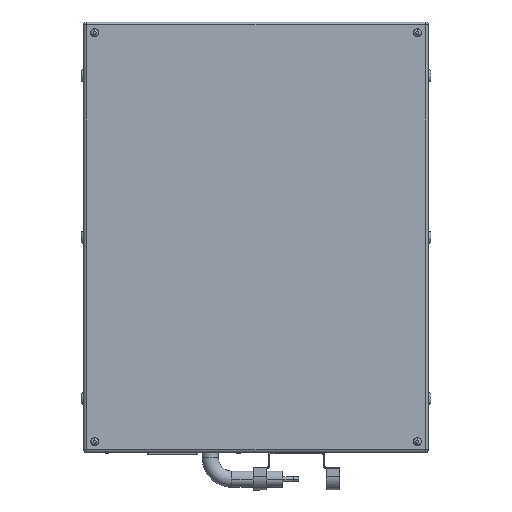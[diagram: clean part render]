
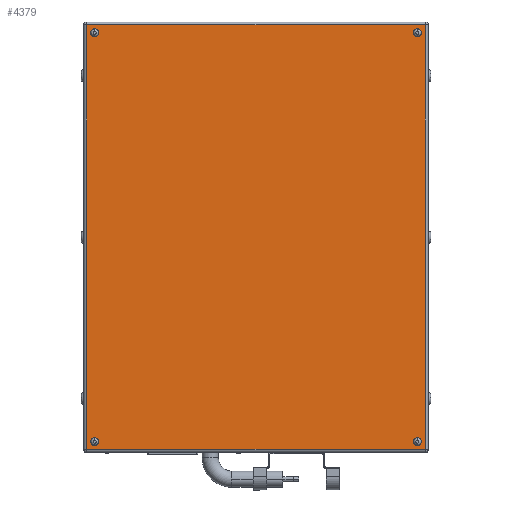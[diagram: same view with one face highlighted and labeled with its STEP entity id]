
A CAD part, front view. The second image highlights one B-rep face of the part: STEP entity #4379.
In plain terms, the highlighted planar face has unit normal (0, -1, 0).
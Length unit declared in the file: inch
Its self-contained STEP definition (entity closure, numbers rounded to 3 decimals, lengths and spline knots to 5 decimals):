
#219 = DIRECTION ( 'NONE',  ( 0., 0., -1. ) ) ;
#276 = ORIENTED_EDGE ( 'NONE', *, *, #18897, .T. ) ;
#513 = DIRECTION ( 'NONE',  ( 1., 0., 0. ) ) ;
#607 = DIRECTION ( 'NONE',  ( 0., -1., 0. ) ) ;
#633 = CIRCLE ( 'NONE', #12388, 0.37402 ) ;
#1040 = EDGE_CURVE ( 'NONE', #8239, #16254, #19279, .T. ) ;
#1176 = VERTEX_POINT ( 'NONE', #19971 ) ;
#1211 = DIRECTION ( 'NONE',  ( 0., -1., 0. ) ) ;
#1282 = VECTOR ( 'NONE', #5000, 39.37008 ) ;
#1363 = CARTESIAN_POINT ( 'NONE',  ( 15., -12., 19.37402 ) ) ;
#1459 = EDGE_CURVE ( 'NONE', #7001, #10163, #6346, .T. ) ;
#1619 = AXIS2_PLACEMENT_3D ( 'NONE', #18265, #5335, #9964 ) ;
#1727 = CARTESIAN_POINT ( 'NONE',  ( 15.734, -12., 19.8 ) ) ;
#1761 = CARTESIAN_POINT ( 'NONE',  ( -15.734, -12., -19.734 ) ) ;
#2200 = CIRCLE ( 'NONE', #10274, 0.37402 ) ;
#2323 = EDGE_CURVE ( 'NONE', #16432, #5870, #18737, .T. ) ;
#2555 = DIRECTION ( 'NONE',  ( 0., 0., -1. ) ) ;
#2671 = FACE_BOUND ( 'NONE', #4828, .T. ) ;
#2726 = EDGE_CURVE ( 'NONE', #16254, #8239, #19765, .T. ) ;
#2907 = DIRECTION ( 'NONE',  ( 0., -1., 0. ) ) ;
#2982 = FACE_OUTER_BOUND ( 'NONE', #15284, .T. ) ;
#3100 = ORIENTED_EDGE ( 'NONE', *, *, #2323, .F. ) ;
#3672 = AXIS2_PLACEMENT_3D ( 'NONE', #6740, #5252, #16632 ) ;
#4014 = CARTESIAN_POINT ( 'NONE',  ( -15., -12., -19. ) ) ;
#4118 = EDGE_CURVE ( 'NONE', #1176, #20426, #8253, .T. ) ;
#4228 = ORIENTED_EDGE ( 'NONE', *, *, #12617, .T. ) ;
#4379 = ADVANCED_FACE ( 'NONE', ( #2671, #7511, #20418, #20626, #2982 ), #15831, .T. ) ;
#4588 = DIRECTION ( 'NONE',  ( 0., -1., 0. ) ) ;
#4695 = DIRECTION ( 'NONE',  ( 0., 0., -1. ) ) ;
#4828 = EDGE_LOOP ( 'NONE', ( #7440, #5367 ) ) ;
#5000 = DIRECTION ( 'NONE',  ( 0., 0., 1. ) ) ;
#5189 = CARTESIAN_POINT ( 'NONE',  ( 0., -12., 0. ) ) ;
#5252 = DIRECTION ( 'NONE',  ( 0., -1., 0. ) ) ;
#5335 = DIRECTION ( 'NONE',  ( 0., -1., 0. ) ) ;
#5355 = LINE ( 'NONE', #5461, #6421 ) ;
#5367 = ORIENTED_EDGE ( 'NONE', *, *, #13427, .F. ) ;
#5461 = CARTESIAN_POINT ( 'NONE',  ( 15.8, -12., -19.734 ) ) ;
#5464 = CARTESIAN_POINT ( 'NONE',  ( 15., -12., 19. ) ) ;
#5491 = DIRECTION ( 'NONE',  ( -1., 0., 0. ) ) ;
#5590 = CARTESIAN_POINT ( 'NONE',  ( -15.8, -12., 19.734 ) ) ;
#5604 = CARTESIAN_POINT ( 'NONE',  ( -15.734, -12., -19.8 ) ) ;
#5870 = VERTEX_POINT ( 'NONE', #10766 ) ;
#5980 = CIRCLE ( 'NONE', #1619, 0.37402 ) ;
#6003 = AXIS2_PLACEMENT_3D ( 'NONE', #4014, #18215, #14190 ) ;
#6346 = CIRCLE ( 'NONE', #3672, 0.37402 ) ;
#6421 = VECTOR ( 'NONE', #513, 39.37008 ) ;
#6476 = EDGE_CURVE ( 'NONE', #5870, #16432, #5980, .T. ) ;
#6740 = CARTESIAN_POINT ( 'NONE',  ( 15., -12., -19. ) ) ;
#7001 = VERTEX_POINT ( 'NONE', #12401 ) ;
#7192 = ORIENTED_EDGE ( 'NONE', *, *, #1459, .F. ) ;
#7200 = CARTESIAN_POINT ( 'NONE',  ( -15., -12., 18.62598 ) ) ;
#7295 = LINE ( 'NONE', #5604, #13968 ) ;
#7440 = ORIENTED_EDGE ( 'NONE', *, *, #15577, .F. ) ;
#7511 = FACE_BOUND ( 'NONE', #18182, .T. ) ;
#7619 = CARTESIAN_POINT ( 'NONE',  ( -15., -12., 19. ) ) ;
#8239 = VERTEX_POINT ( 'NONE', #8285 ) ;
#8253 = LINE ( 'NONE', #1727, #1282 ) ;
#8285 = CARTESIAN_POINT ( 'NONE',  ( -15., -12., 19.37402 ) ) ;
#8549 = AXIS2_PLACEMENT_3D ( 'NONE', #7619, #1211, #4695 ) ;
#9964 = DIRECTION ( 'NONE',  ( 0., 0., -1. ) ) ;
#10008 = CARTESIAN_POINT ( 'NONE',  ( -15.734, -12., 19.734 ) ) ;
#10057 = VERTEX_POINT ( 'NONE', #1761 ) ;
#10163 = VERTEX_POINT ( 'NONE', #12618 ) ;
#10198 = EDGE_CURVE ( 'NONE', #10163, #7001, #14931, .T. ) ;
#10274 = AXIS2_PLACEMENT_3D ( 'NONE', #18782, #2907, #11125 ) ;
#10672 = ORIENTED_EDGE ( 'NONE', *, *, #6476, .F. ) ;
#10766 = CARTESIAN_POINT ( 'NONE',  ( -15., -12., -18.62598 ) ) ;
#11125 = DIRECTION ( 'NONE',  ( 0., 0., -1. ) ) ;
#11196 = EDGE_CURVE ( 'NONE', #16389, #10057, #7295, .T. ) ;
#11377 = DIRECTION ( 'NONE',  ( 0., -1., 0. ) ) ;
#11862 = CARTESIAN_POINT ( 'NONE',  ( 15., -12., -19. ) ) ;
#12016 = CARTESIAN_POINT ( 'NONE',  ( 15.734, -12., 19.734 ) ) ;
#12388 = AXIS2_PLACEMENT_3D ( 'NONE', #5464, #11377, #219 ) ;
#12401 = CARTESIAN_POINT ( 'NONE',  ( 15., -12., -19.37402 ) ) ;
#12617 = EDGE_CURVE ( 'NONE', #10057, #1176, #5355, .T. ) ;
#12618 = CARTESIAN_POINT ( 'NONE',  ( 15., -12., -18.62598 ) ) ;
#12977 = ORIENTED_EDGE ( 'NONE', *, *, #10198, .F. ) ;
#13417 = AXIS2_PLACEMENT_3D ( 'NONE', #20558, #4588, #15960 ) ;
#13427 = EDGE_CURVE ( 'NONE', #14789, #17789, #2200, .T. ) ;
#13498 = LINE ( 'NONE', #5590, #15634 ) ;
#13968 = VECTOR ( 'NONE', #2555, 39.37008 ) ;
#14190 = DIRECTION ( 'NONE',  ( 0., 0., -1. ) ) ;
#14789 = VERTEX_POINT ( 'NONE', #16330 ) ;
#14931 = CIRCLE ( 'NONE', #17602, 0.37402 ) ;
#15284 = EDGE_LOOP ( 'NONE', ( #16589, #276, #16120, #4228 ) ) ;
#15577 = EDGE_CURVE ( 'NONE', #17789, #14789, #633, .T. ) ;
#15634 = VECTOR ( 'NONE', #5491, 39.37008 ) ;
#15831 = PLANE ( 'NONE',  #19742 ) ;
#15960 = DIRECTION ( 'NONE',  ( 0., 0., -1. ) ) ;
#16120 = ORIENTED_EDGE ( 'NONE', *, *, #11196, .T. ) ;
#16254 = VERTEX_POINT ( 'NONE', #7200 ) ;
#16330 = CARTESIAN_POINT ( 'NONE',  ( 15., -12., 18.62598 ) ) ;
#16346 = DIRECTION ( 'NONE',  ( 0., 0., -1. ) ) ;
#16389 = VERTEX_POINT ( 'NONE', #10008 ) ;
#16432 = VERTEX_POINT ( 'NONE', #19768 ) ;
#16589 = ORIENTED_EDGE ( 'NONE', *, *, #4118, .T. ) ;
#16632 = DIRECTION ( 'NONE',  ( 0., 0., -1. ) ) ;
#17602 = AXIS2_PLACEMENT_3D ( 'NONE', #11862, #607, #18277 ) ;
#17789 = VERTEX_POINT ( 'NONE', #1363 ) ;
#18003 = DIRECTION ( 'NONE',  ( 0., -1., 0. ) ) ;
#18182 = EDGE_LOOP ( 'NONE', ( #20339, #19056 ) ) ;
#18215 = DIRECTION ( 'NONE',  ( 0., -1., 0. ) ) ;
#18265 = CARTESIAN_POINT ( 'NONE',  ( -15., -12., -19. ) ) ;
#18277 = DIRECTION ( 'NONE',  ( 0., 0., -1. ) ) ;
#18737 = CIRCLE ( 'NONE', #6003, 0.37402 ) ;
#18782 = CARTESIAN_POINT ( 'NONE',  ( 15., -12., 19. ) ) ;
#18897 = EDGE_CURVE ( 'NONE', #20426, #16389, #13498, .T. ) ;
#19056 = ORIENTED_EDGE ( 'NONE', *, *, #2726, .F. ) ;
#19279 = CIRCLE ( 'NONE', #8549, 0.37402 ) ;
#19742 = AXIS2_PLACEMENT_3D ( 'NONE', #5189, #18003, #16346 ) ;
#19765 = CIRCLE ( 'NONE', #13417, 0.37402 ) ;
#19768 = CARTESIAN_POINT ( 'NONE',  ( -15., -12., -19.37402 ) ) ;
#19829 = EDGE_LOOP ( 'NONE', ( #12977, #7192 ) ) ;
#19971 = CARTESIAN_POINT ( 'NONE',  ( 15.734, -12., -19.734 ) ) ;
#20064 = EDGE_LOOP ( 'NONE', ( #10672, #3100 ) ) ;
#20339 = ORIENTED_EDGE ( 'NONE', *, *, #1040, .F. ) ;
#20418 = FACE_BOUND ( 'NONE', #19829, .T. ) ;
#20426 = VERTEX_POINT ( 'NONE', #12016 ) ;
#20558 = CARTESIAN_POINT ( 'NONE',  ( -15., -12., 19. ) ) ;
#20626 = FACE_BOUND ( 'NONE', #20064, .T. ) ;
